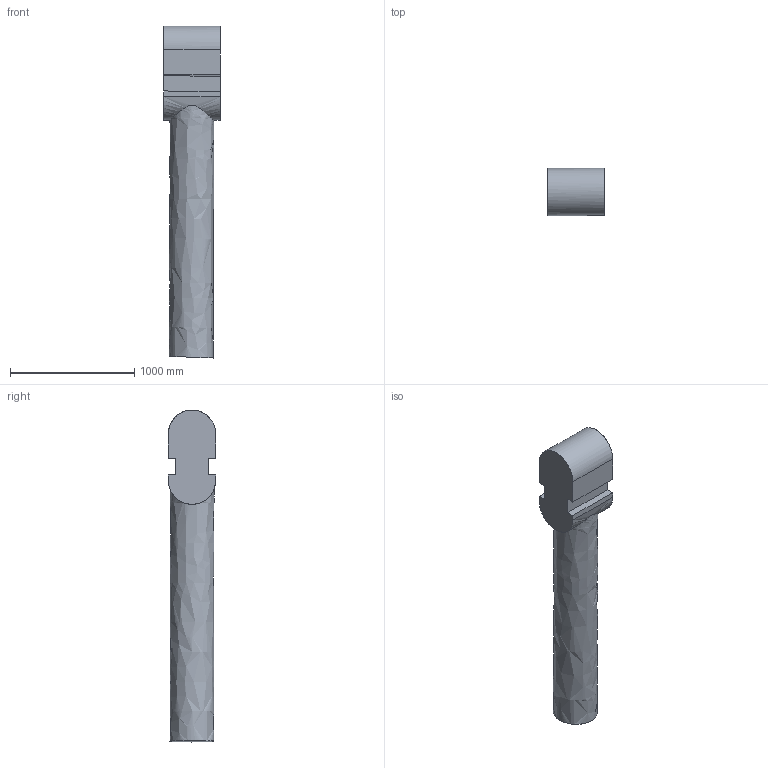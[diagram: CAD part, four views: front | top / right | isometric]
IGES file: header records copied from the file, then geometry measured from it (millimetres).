
Global section: file name: Z:\prj6.0\JFM_2018\outgoing\2022_scanned_data_JFM_0015_w_horn\2022 scans\model in tunnel at 0 deg mod\14x22_mast_in_tunnel_0deg_mod.igs; native system: NX V10.0; preprocessor: SIEMENS PLM Software NX 10.0; date: 20220822.141054; units: millimetre
Bounding box: 458.24 x 380.64 x 2674.21 mm (x, y, z)
Surface area: 3644913.1 mm2 (no closed solid volume)
Topology: 0 solids, 0 shells, 18 faces, 218 edges, 217 vertices
Faces by surface type: bspline 18
